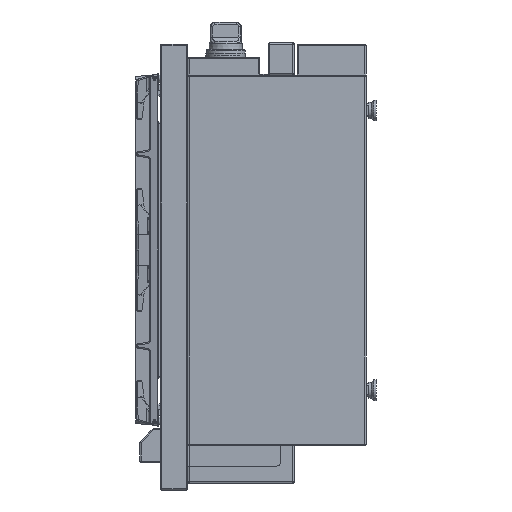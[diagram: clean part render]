
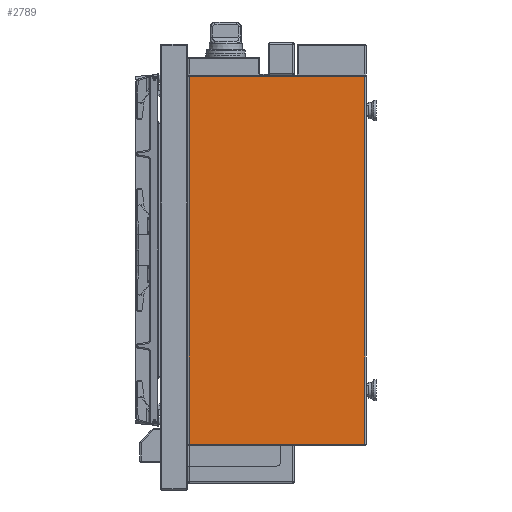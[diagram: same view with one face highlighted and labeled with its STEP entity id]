
A CAD part, left-side view. The second image highlights one B-rep face of the part: STEP entity #2789.
In plain terms, the highlighted planar face has unit normal (-1, 0, 0).
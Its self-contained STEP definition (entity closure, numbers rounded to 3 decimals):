
#589=DIRECTION('',(0.,0.,-1.));
#590=VECTOR('',#589,536.4);
#591=CARTESIAN_POINT('',(-499.,128.2,268.2));
#592=LINE('',#591,#590);
#593=DIRECTION('',(0.,1.,0.));
#594=VECTOR('',#593,256.4);
#595=CARTESIAN_POINT('',(-499.,-128.2,268.2));
#596=LINE('',#595,#594);
#597=DIRECTION('',(0.,0.,1.));
#598=VECTOR('',#597,536.4);
#599=CARTESIAN_POINT('',(-499.,-128.2,-268.2));
#600=LINE('',#599,#598);
#601=DIRECTION('',(0.,-1.,0.));
#602=VECTOR('',#601,256.4);
#603=CARTESIAN_POINT('',(-499.,128.2,-268.2));
#604=LINE('',#603,#602);
#1644=CARTESIAN_POINT('',(-499.,128.2,268.2));
#1645=CARTESIAN_POINT('',(-499.,128.2,-268.2));
#1646=VERTEX_POINT('',#1644);
#1647=VERTEX_POINT('',#1645);
#1648=CARTESIAN_POINT('',(-499.,-128.2,268.2));
#1649=VERTEX_POINT('',#1648);
#1668=CARTESIAN_POINT('',(-499.,-128.2,-268.2));
#1669=VERTEX_POINT('',#1668);
#2775=CARTESIAN_POINT('',(-499.,0.,0.));
#2776=DIRECTION('',(1.,0.,0.));
#2777=DIRECTION('',(0.,0.,-1.));
#2778=AXIS2_PLACEMENT_3D('',#2775,#2776,#2777);
#2779=PLANE('',#2778);
#2781=ORIENTED_EDGE('',*,*,#2780,.F.);
#2783=ORIENTED_EDGE('',*,*,#2782,.F.);
#2785=ORIENTED_EDGE('',*,*,#2784,.F.);
#2786=ORIENTED_EDGE('',*,*,#2768,.F.);
#2787=EDGE_LOOP('',(#2781,#2783,#2785,#2786));
#2788=FACE_OUTER_BOUND('',#2787,.F.);
#2768=EDGE_CURVE('',#1647,#1669,#604,.T.);
#2780=EDGE_CURVE('',#1646,#1647,#592,.T.);
#2782=EDGE_CURVE('',#1649,#1646,#596,.T.);
#2784=EDGE_CURVE('',#1669,#1649,#600,.T.);
#2789=ADVANCED_FACE('',(#2788),#2779,.F.);
